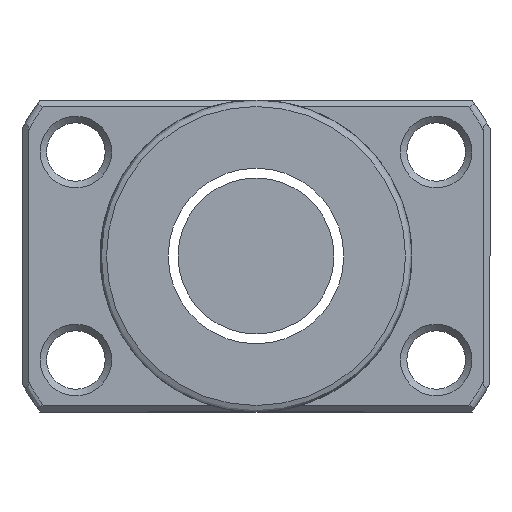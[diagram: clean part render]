
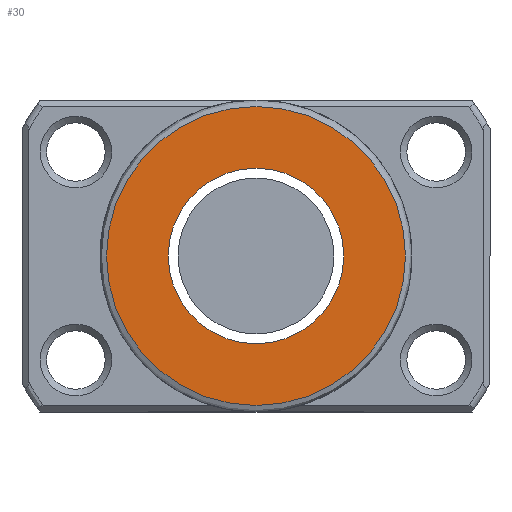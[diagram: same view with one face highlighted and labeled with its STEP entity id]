
A CAD part, left-side view. The second image highlights one B-rep face of the part: STEP entity #30.
In plain terms, the highlighted planar face has unit normal (-1, 0, 0).
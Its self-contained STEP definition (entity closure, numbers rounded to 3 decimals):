
#8 = AXIS2_PLACEMENT_3D ( 'NONE', #1271, #898, #499 ) ;
#21 = EDGE_CURVE ( 'NONE', #339, #339, #452, .T. ) ;
#30 = ADVANCED_FACE ( 'NONE', ( #1076, #954 ), #456, .T. ) ;
#179 = CARTESIAN_POINT ( 'NONE',  ( -50., 0., 0. ) ) ;
#214 = EDGE_CURVE ( 'NONE', #1221, #1221, #871, .T. ) ;
#339 = VERTEX_POINT ( 'NONE', #714 ) ;
#452 = CIRCLE ( 'NONE', #1238, 11.5 ) ;
#456 = PLANE ( 'NONE',  #1339 ) ;
#499 = DIRECTION ( 'NONE',  ( 0., 0., -1. ) ) ;
#541 = EDGE_LOOP ( 'NONE', ( #1167 ) ) ;
#605 = CARTESIAN_POINT ( 'NONE',  ( -50., 12., 0. ) ) ;
#714 = CARTESIAN_POINT ( 'NONE',  ( -50., 0., 11.5 ) ) ;
#715 = DIRECTION ( 'NONE',  ( 0., 0., 1. ) ) ;
#759 = EDGE_LOOP ( 'NONE', ( #1178 ) ) ;
#808 = DIRECTION ( 'NONE',  ( -1., 0., 0. ) ) ;
#871 = CIRCLE ( 'NONE', #8, 6.75 ) ;
#898 = DIRECTION ( 'NONE',  ( 1., 0., 0. ) ) ;
#954 = FACE_BOUND ( 'NONE', #541, .T. ) ;
#962 = CARTESIAN_POINT ( 'NONE',  ( -50., 0., -6.75 ) ) ;
#1052 = DIRECTION ( 'NONE',  ( 0., 0., 1. ) ) ;
#1076 = FACE_OUTER_BOUND ( 'NONE', #759, .T. ) ;
#1167 = ORIENTED_EDGE ( 'NONE', *, *, #214, .T. ) ;
#1178 = ORIENTED_EDGE ( 'NONE', *, *, #21, .T. ) ;
#1221 = VERTEX_POINT ( 'NONE', #962 ) ;
#1238 = AXIS2_PLACEMENT_3D ( 'NONE', #179, #808, #1052 ) ;
#1271 = CARTESIAN_POINT ( 'NONE',  ( -50., 0., 0. ) ) ;
#1336 = DIRECTION ( 'NONE',  ( -1., 0., 0. ) ) ;
#1339 = AXIS2_PLACEMENT_3D ( 'NONE', #605, #1336, #715 ) ;
